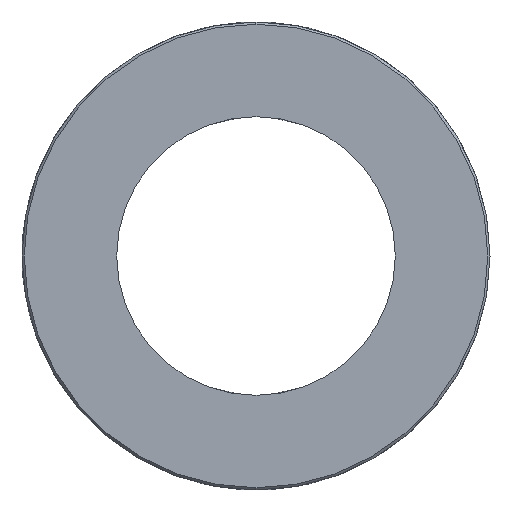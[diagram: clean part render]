
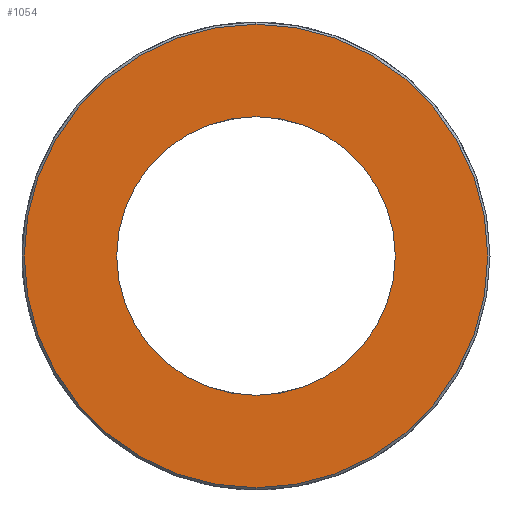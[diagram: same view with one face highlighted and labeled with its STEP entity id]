
A CAD part, left-side view. The second image highlights one B-rep face of the part: STEP entity #1054.
In plain terms, the highlighted planar face has unit normal (-1, 0, 0) as drawn and (0, 0, 1) by its records, which use the part's own axes.
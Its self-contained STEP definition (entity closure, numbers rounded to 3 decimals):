
#25 = EDGE_CURVE ( 'NONE', #1809, #1411, #168, .T. ) ;
#76 = EDGE_CURVE ( 'NONE', #519, #91, #703, .T. ) ;
#91 = VERTEX_POINT ( 'NONE', #1614 ) ;
#112 = DIRECTION ( 'NONE',  ( 1., 0., 0. ) ) ;
#124 = CARTESIAN_POINT ( 'NONE',  ( 0., 0., 8. ) ) ;
#168 = CIRCLE ( 'NONE', #1342, 20.8 ) ;
#172 = DIRECTION ( 'NONE',  ( 0., 0., 1. ) ) ;
#251 = CARTESIAN_POINT ( 'NONE',  ( 0., 0., 8. ) ) ;
#293 = DIRECTION ( 'NONE',  ( 0., 0., 1. ) ) ;
#327 = DIRECTION ( 'NONE',  ( 0., 0., 1. ) ) ;
#392 = DIRECTION ( 'NONE',  ( 0., 0., 1. ) ) ;
#502 = AXIS2_PLACEMENT_3D ( 'NONE', #2036, #293, #565 ) ;
#519 = VERTEX_POINT ( 'NONE', #1594 ) ;
#533 = CIRCLE ( 'NONE', #1834, 20.8 ) ;
#565 = DIRECTION ( 'NONE',  ( 1., 0., 0. ) ) ;
#606 = EDGE_LOOP ( 'NONE', ( #826, #1042 ) ) ;
#625 = FACE_OUTER_BOUND ( 'NONE', #606, .T. ) ;
#703 = CIRCLE ( 'NONE', #502, 12.5 ) ;
#743 = CIRCLE ( 'NONE', #1004, 12.5 ) ;
#826 = ORIENTED_EDGE ( 'NONE', *, *, #25, .T. ) ;
#957 = DIRECTION ( 'NONE',  ( 1., 0., 0. ) ) ;
#991 = DIRECTION ( 'NONE',  ( 1., 0., 0. ) ) ;
#1004 = AXIS2_PLACEMENT_3D ( 'NONE', #1186, #392, #991 ) ;
#1042 = ORIENTED_EDGE ( 'NONE', *, *, #1706, .T. ) ;
#1054 = ADVANCED_FACE ( 'NONE', ( #625, #1269 ), #1089, .T. ) ;
#1089 = PLANE ( 'NONE',  #1741 ) ;
#1094 = DIRECTION ( 'NONE',  ( 0., 0., 1. ) ) ;
#1142 = ORIENTED_EDGE ( 'NONE', *, *, #1820, .F. ) ;
#1153 = CARTESIAN_POINT ( 'NONE',  ( -20.8, 0., 8. ) ) ;
#1173 = EDGE_LOOP ( 'NONE', ( #1142, #1338 ) ) ;
#1186 = CARTESIAN_POINT ( 'NONE',  ( 0., 0., 8. ) ) ;
#1269 = FACE_BOUND ( 'NONE', #1173, .T. ) ;
#1338 = ORIENTED_EDGE ( 'NONE', *, *, #76, .F. ) ;
#1342 = AXIS2_PLACEMENT_3D ( 'NONE', #251, #1094, #112 ) ;
#1411 = VERTEX_POINT ( 'NONE', #1555 ) ;
#1555 = CARTESIAN_POINT ( 'NONE',  ( 20.8, 0., 8. ) ) ;
#1594 = CARTESIAN_POINT ( 'NONE',  ( 12.5, 0., 8. ) ) ;
#1611 = CARTESIAN_POINT ( 'NONE',  ( 0., 0., 8. ) ) ;
#1614 = CARTESIAN_POINT ( 'NONE',  ( -12.5, 0., 8. ) ) ;
#1706 = EDGE_CURVE ( 'NONE', #1411, #1809, #533, .T. ) ;
#1741 = AXIS2_PLACEMENT_3D ( 'NONE', #124, #327, #1888 ) ;
#1809 = VERTEX_POINT ( 'NONE', #1153 ) ;
#1820 = EDGE_CURVE ( 'NONE', #91, #519, #743, .T. ) ;
#1834 = AXIS2_PLACEMENT_3D ( 'NONE', #1611, #172, #957 ) ;
#1888 = DIRECTION ( 'NONE',  ( 1., 0., 0. ) ) ;
#2036 = CARTESIAN_POINT ( 'NONE',  ( 0., 0., 8. ) ) ;
